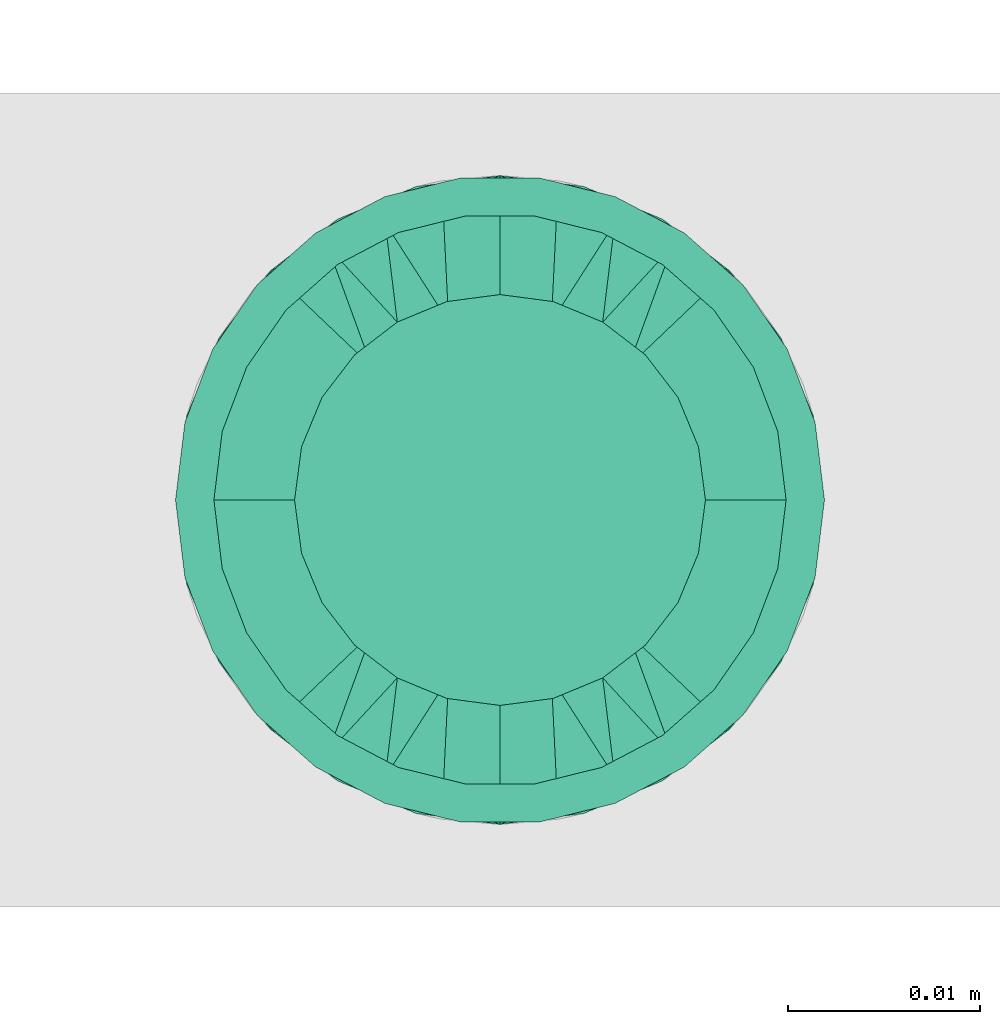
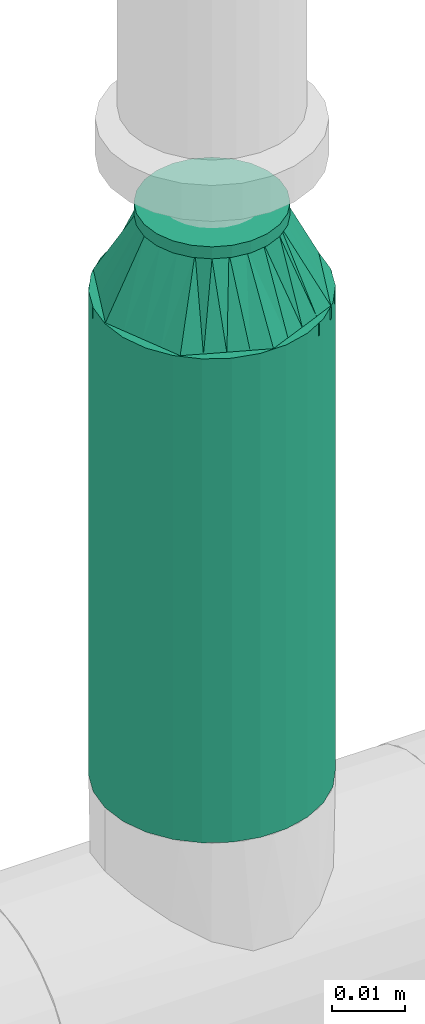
# One storey, part 32 of 94: 1 flow fitting, 1 flow segment.
"""IFC2X3 building model written with IfcOpenShell, lengths in millimetres."""

from ifc_helpers import new_model, entity, si_unit, converted_unit, derived_unit, direction, frame, origin_with_axes, origin_2d_with_axis, place, context, subcontext, project, spatial, hollow_circle, extrude, open_shell, surface_model, source, transform, mapped, type_object, element, save


model = new_model("IFC2X3")

# Units and contexts
model_context = context("Model", 3, precision=0.01, world=frame((0.0, 4.29681676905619e-09, 0.0)), true_north=direction((4.01073788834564e-13, 1.0)))
plan_context = context("Plan", 3, precision=0.01, world=frame((0.0, 4.29681676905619e-09, 0.0)), true_north=direction((4.01073788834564e-13, 1.0)))
body_context = subcontext(model_context, "Body", "Model", "MODEL_VIEW")
ifc_project = project(units=[converted_unit("PLANEANGLEUNIT", "DEGREE", entity("IfcPositiveLengthMeasure", 0.0174532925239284), si_unit("PLANEANGLEUNIT", "RADIAN"), dimensions=[0, 0, 0, 0, 0, 0, 0]), si_unit("AREAUNIT", "SQUARE_METRE"), si_unit("LENGTHUNIT", "METRE", prefix="MILLI"), si_unit("MASSUNIT", "GRAM", prefix="KILO"), si_unit("POWERUNIT", "WATT"), si_unit("PRESSUREUNIT", "PASCAL"), si_unit("FORCEUNIT", "NEWTON", prefix="KILO"), si_unit("ELECTRICCURRENTUNIT", "AMPERE"), si_unit("THERMODYNAMICTEMPERATUREUNIT", "DEGREE_CELSIUS"), si_unit("TIMEUNIT", "SECOND"), si_unit("VOLUMEUNIT", "CUBIC_METRE"), derived_unit("LINEARVELOCITYUNIT", [(si_unit("LENGTHUNIT", "METRE"), 1), (si_unit("TIMEUNIT", "SECOND"), -1)]), derived_unit("VOLUMETRICFLOWRATEUNIT", [(si_unit("VOLUMEUNIT", "CUBIC_METRE"), 1), (si_unit("TIMEUNIT", "SECOND"), -1)]), derived_unit("THERMALTRANSMITTANCEUNIT", [(si_unit("POWERUNIT", "WATT"), 1), (si_unit("THERMODYNAMICTEMPERATUREUNIT", "KELVIN"), -1), (si_unit("AREAUNIT", "SQUARE_METRE"), -1)])], contexts=[model_context, plan_context])

# Site, building, storey
site_placement = place(None, frame((0.0, -4.29681676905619e-09, 0.0), z_axis=(0.0, 0.0, 1.0), x_axis=(1.0, 0.0, 0.0)))
site = spatial("IfcSite", under=ifc_project, at=site_placement, CompositionType="ELEMENT")
building_placement = place(site_placement, frame((0.0, 4.29681676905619e-09, 0.0), z_axis=(0.0, 0.0, 1.0), x_axis=(1.0, 0.0, 0.0)))
building = spatial("IfcBuilding", under=site, at=building_placement, Name="mc-building", CompositionType="ELEMENT")
storey_placement = place(building_placement, frame((0.0, 0.0, 200300.0), z_axis=(0.0, 0.0, 1.0), x_axis=(1.0, 0.0, 0.0)))
storey = spatial("IfcBuildingStorey", under=building, at=storey_placement, Name="Nivå C", CompositionType="ELEMENT", Elevation=200300.0)

# Flow fitting
pipe_fitting_type = type_object("IfcPipeFittingType", Name="magi_pipe_fe_reducer_centric_short_NOR", PredefinedType="TRANSITION")
shared_shape_1 = source(origin_with_axes(), body_context, "Body", "SurfaceModel", [
    surface_model("IfcShellBasedSurfaceModel", [(-2.0, -7.56604, -7.56604), (-2.0, -10.33541, -2.76936), (-2.0, -5.35, -9.26647), (-2.0, 5.35, -9.26647), (-2.0, 10.33541, -2.76936), (-2.0, 7.56604, -7.56604), (12.4, 11.9501, 11.9501), (12.4, 0.0, 16.9), (12.4, 11.9501, -11.9501), (12.4, 16.9, 0.0), (0.0, -10.7, 0.0), (0.0, -5.35, 9.26647), (0.0, -5.35, -9.26647), (0.0, 10.7, 0.0), (12.4, 15.66253, -2.98753), (12.4, 8.96258, -13.18758), (0.0, 6.6875, -6.94985), (12.4, -15.66253, -2.98753), (12.4, -16.9, 0.0), (12.4, 5.97505, -14.42505), (0.0, 5.35, -9.26647), (12.4, 14.42505, -5.97505), (0.0, 8.025, -4.63324), (0.0, 9.3625, -2.31662), (0.0, -9.3625, -2.31662), (0.0, -8.025, -4.63324), (12.4, -14.42505, -5.97505), (12.4, 13.18758, -8.96258), (12.4, -13.18758, -8.96258), (12.4, -11.9501, -11.9501), (0.0, -6.6875, -6.94985), (12.4, -8.96258, -13.18758), (12.4, -5.97505, -14.42505), (12.4, -15.66253, 2.98753), (12.4, -8.96258, 13.18758), (0.0, -6.6875, 6.94985), (12.4, -11.9501, 11.9501), (12.4, 15.66253, 2.98753), (12.4, -5.97505, 14.42505), (12.4, -14.42505, 5.97505), (0.0, -8.025, 4.63324), (0.0, -9.3625, 2.31662), (0.0, 9.3625, 2.31662), (0.0, 8.025, 4.63324), (12.4, 14.42505, 5.97505), (12.4, -13.18758, 8.96258), (12.4, 13.18758, 8.96258), (0.0, 6.6875, 6.94985), (12.4, 8.96258, 13.18758), (0.0, 5.35, 9.26647), (12.4, 5.97505, 14.42505), (14.4, 4.37404, -16.32415), (14.4, 8.45, -14.63583), (14.4, 11.9501, -11.9501), (14.4, -8.45, -14.63583), (14.4, 16.32415, -4.37404), (14.4, 16.32415, 4.37404), (14.4, 14.63583, -8.45), (14.4, 0.0, -16.9), (14.4, -4.37404, -16.32415), (14.4, -11.9501, -11.9501), (14.4, -16.32415, -4.37404), (14.4, -14.63583, -8.45), (14.4, -16.32415, 4.37404), (14.4, 16.9, 0.0), (14.4, 14.63583, 8.45), (14.4, 11.9501, 11.9501), (14.4, 4.37404, 16.32415), (14.4, 8.45, 14.63583), (14.4, 0.0, 16.9), (14.4, -14.63583, 8.45), (14.4, -16.9, 0.0), (14.4, -8.45, 14.63583), (14.4, -11.9501, 11.9501), (14.4, -4.37404, 16.32415), (12.4, 4.37404, 16.32415), (12.4, -14.63583, 8.45), (12.4, 16.32415, 4.37404), (12.4, 8.45, 14.63583), (12.4, 14.63583, 8.45), (12.4, -8.45, 14.63583), (12.4, -4.37404, 16.32415), (12.4, -16.32415, 4.37404), (12.4, -16.32415, -4.37404), (12.4, -8.45, -14.63583), (12.4, 16.32415, -4.37404), (12.4, 14.63583, -8.45), (12.4, 8.45, -14.63583), (12.4, 4.37404, -16.32415), (12.4, 0.0, -16.9), (12.4, -14.63583, -8.45), (12.4, -4.37404, -16.32415), (-2.0, 2.76936, 10.33541), (-2.0, 0.0, 10.7), (-2.0, 5.35, 9.26647), (-2.0, 7.56604, 7.56604), (-2.0, 9.26647, 5.35), (-2.0, 10.33541, 2.76936), (-2.0, -10.33541, 2.76936), (-2.0, -2.76936, 10.33541), (-2.0, -7.56604, 7.56604), (-2.0, -5.35, 9.26647), (-2.0, -9.26647, 5.35), (-2.0, -10.7, 0.0), (-2.0, 9.26647, -5.35), (-2.0, 2.76936, -10.33541), (-2.0, -9.26647, -5.35), (-2.0, 0.0, -10.7), (-2.0, -2.76936, -10.33541), (-2.0, 10.7, 0.0), (0.0, 0.0, -10.7), (0.0, 2.76936, -10.33541), (0.0, 10.33541, -2.76936), (0.0, 7.56604, -7.56604), (0.0, -10.33541, -2.76936), (0.0, 9.26647, -5.35), (0.0, 0.0, 10.7), (0.0, -2.76936, -10.33541), (0.0, -7.56604, -7.56604), (0.0, -9.26647, -5.35), (0.0, 10.33541, 2.76936), (0.0, 9.26647, 5.35), (0.0, 7.56604, 7.56604), (0.0, 2.76936, 10.33541), (0.0, -7.56604, 7.56604), (0.0, -10.33541, 2.76936), (0.0, -9.26647, 5.35), (0.0, -2.76936, 10.33541), (0.0, 2.675, -9.26647), (0.0, -2.675, -9.26647), (12.4, 2.98753, -15.66253), (0.0, 0.0, -9.26647), (12.4, -2.98753, -15.66253), (0.0, -2.675, 9.26647), (0.0, 2.675, 9.26647), (12.4, -2.98753, 15.66253), (0.0, 0.0, 9.26647), (12.4, 2.98753, 15.66253)], [open_shell([[[0, 1, 2]], [[3, 4, 5]], [[6, 7, 8]], [[8, 9, 6]], [[10, 11, 12]], [[13, 9, 14]], [[15, 16, 8]], [[17, 18, 10]], [[15, 19, 20]], [[21, 22, 23]], [[24, 25, 26]], [[22, 21, 27]], [[28, 26, 25]], [[29, 30, 31]], [[12, 32, 31]], [[10, 18, 33]], [[34, 35, 36]], [[37, 9, 13]], [[34, 38, 11]], [[39, 40, 41]], [[42, 43, 44]], [[40, 39, 45]], [[46, 44, 43]], [[6, 47, 48]], [[49, 50, 48]], [[51, 52, 53]], [[54, 51, 53]], [[53, 55, 56]], [[55, 53, 57]], [[53, 56, 54]], [[58, 54, 59]], [[58, 51, 54]], [[60, 61, 62]], [[61, 60, 54]], [[54, 63, 61]], [[56, 55, 64]], [[56, 65, 66]], [[56, 66, 67]], [[67, 63, 54]], [[67, 66, 68]], [[63, 67, 69]], [[69, 70, 63]], [[71, 61, 63]], [[70, 72, 73]], [[70, 69, 72]], [[72, 69, 74]], [[54, 56, 67]], [[75, 76, 7]], [[77, 75, 78]], [[6, 79, 77]], [[6, 77, 78]], [[76, 75, 77]], [[80, 76, 36]], [[80, 81, 7]], [[7, 76, 80]], [[82, 76, 77]], [[82, 83, 18]], [[82, 77, 84]], [[77, 85, 8]], [[8, 85, 86]], [[8, 87, 88]], [[84, 77, 8]], [[88, 89, 8]], [[83, 29, 90]], [[29, 83, 84]], [[84, 89, 91]], [[83, 82, 84]], [[8, 89, 84]], [[85, 77, 9]], [[83, 61, 18]], [[90, 62, 83]], [[54, 29, 84]], [[90, 29, 60]], [[59, 84, 91]], [[83, 62, 61]], [[61, 71, 18]], [[59, 54, 84]], [[60, 29, 54]], [[60, 62, 90]], [[58, 59, 91]], [[91, 89, 58]], [[88, 51, 89]], [[87, 52, 88]], [[57, 8, 86]], [[87, 8, 53]], [[55, 86, 85]], [[87, 53, 52]], [[52, 51, 88]], [[64, 55, 85]], [[57, 86, 55]], [[57, 53, 8]], [[9, 64, 85]], [[89, 51, 58]], [[77, 56, 9]], [[79, 65, 77]], [[68, 6, 78]], [[79, 6, 66]], [[67, 78, 75]], [[77, 65, 56]], [[56, 64, 9]], [[67, 68, 78]], [[66, 6, 68]], [[66, 65, 79]], [[69, 67, 75]], [[75, 7, 69]], [[81, 74, 7]], [[80, 72, 81]], [[70, 36, 76]], [[80, 36, 73]], [[63, 76, 82]], [[80, 73, 72]], [[72, 74, 81]], [[71, 63, 82]], [[70, 76, 63]], [[70, 73, 36]], [[18, 71, 82]], [[7, 74, 69]], [[92, 1, 93]], [[94, 1, 92]], [[95, 96, 97]], [[95, 97, 94]], [[98, 93, 1]], [[99, 100, 101]], [[99, 93, 100]], [[100, 98, 102]], [[93, 98, 100]], [[98, 1, 103]], [[94, 97, 1]], [[1, 97, 4]], [[5, 4, 104]], [[4, 3, 1]], [[105, 1, 3]], [[1, 0, 106]], [[2, 107, 108]], [[2, 1, 105]], [[105, 107, 2]], [[4, 97, 109]], [[20, 110, 111]], [[112, 20, 113]], [[114, 20, 112]], [[112, 113, 115]], [[116, 114, 112]], [[110, 12, 117]], [[110, 20, 12]], [[118, 114, 119]], [[114, 118, 12]], [[20, 114, 12]], [[112, 13, 120]], [[120, 121, 122]], [[120, 122, 123]], [[116, 112, 123]], [[123, 122, 49]], [[116, 124, 114]], [[125, 124, 126]], [[10, 114, 125]], [[124, 127, 11]], [[125, 114, 124]], [[127, 124, 116]], [[123, 112, 120]], [[1, 114, 103]], [[106, 119, 1]], [[12, 0, 2]], [[106, 0, 118]], [[117, 2, 108]], [[1, 119, 114]], [[114, 10, 103]], [[117, 12, 2]], [[118, 0, 12]], [[118, 119, 106]], [[110, 117, 108]], [[108, 107, 110]], [[105, 111, 107]], [[3, 20, 105]], [[115, 5, 104]], [[3, 5, 113]], [[112, 104, 4]], [[3, 113, 20]], [[20, 111, 105]], [[13, 112, 4]], [[115, 104, 112]], [[115, 113, 5]], [[109, 13, 4]], [[107, 111, 110]], [[97, 120, 109]], [[96, 121, 97]], [[49, 95, 94]], [[96, 95, 122]], [[123, 94, 92]], [[97, 121, 120]], [[120, 13, 109]], [[123, 49, 94]], [[122, 95, 49]], [[122, 121, 96]], [[116, 123, 92]], [[92, 93, 116]], [[99, 127, 93]], [[101, 11, 99]], [[126, 100, 102]], [[101, 100, 124]], [[125, 102, 98]], [[101, 124, 11]], [[11, 127, 99]], [[10, 125, 98]], [[126, 102, 125]], [[126, 124, 100]], [[103, 10, 98]], [[93, 127, 116]], [[18, 7, 36]], [[18, 29, 8]], [[89, 8, 29]], [[18, 8, 7]], [[13, 11, 49]], [[13, 20, 12]], [[13, 12, 11]], [[24, 26, 17]], [[10, 24, 17]], [[16, 15, 20]], [[30, 12, 31]], [[23, 14, 21]], [[19, 128, 20]], [[27, 8, 16]], [[32, 12, 129]], [[30, 28, 25]], [[130, 131, 128]], [[129, 132, 32]], [[16, 22, 27]], [[13, 14, 23]], [[128, 19, 130]], [[130, 89, 131]], [[131, 132, 129]], [[89, 132, 131]], [[28, 30, 29]], [[42, 44, 37]], [[13, 42, 37]], [[35, 34, 11]], [[47, 49, 48]], [[41, 33, 39]], [[38, 133, 11]], [[45, 36, 35]], [[50, 49, 134]], [[47, 46, 43]], [[135, 136, 133]], [[134, 137, 50]], [[35, 40, 45]], [[10, 33, 41]], [[133, 38, 135]], [[135, 7, 136]], [[136, 137, 134]], [[7, 137, 136]], [[46, 47, 6]]])]),
])
flow_fitting_placement = place(storey_placement, frame((527508.72873, 407003.74497, 2975.04800000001), z_axis=(0.0, 1.0, 0.0), x_axis=(0.0, 0.0, -1.0)))
element("IfcFlowFitting", 1, at=flow_fitting_placement, inside=storey, type_object=pipe_fitting_type, Name="magi_pipe_fe_reducer_centric_short_NOR", context=body_context, shape_type="MappedRepresentation", body=[
    mapped(shared_shape_1, transform((0.0, 0.0, 0.0), scale=1.0)),
])

# Flow segment
pipe_segment_type = type_object("IfcPipeSegmentType", Name="Stålrør normaltykke", PredefinedType="RIGIDSEGMENT")
shared_shape_2 = source(origin_with_axes(), body_context, "Body", "SweptSolid", [
    extrude(hollow_circle(Radius=16.9, WallThickness=2.0, at=origin_2d_with_axis()), frame((0.0, 0.0, 0.0), z_axis=(1.0, 0.0, 0.0), x_axis=(0.0, 1.0, 0.0)), (0.0, 0.0, 1.0), 80.8),
])
flow_segment_placement = place(storey_placement, frame((527508.72873, 407003.74497, 2962.64799999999), z_axis=(0.0, 1.0, 0.0), x_axis=(0.0, 0.0, -1.0)))
element("IfcFlowSegment", 2, at=flow_segment_placement, inside=storey, type_object=pipe_segment_type, Name="Stålrør normaltykke", context=body_context, shape_type="MappedRepresentation", body=[
    mapped(shared_shape_2, transform((0.0, 0.0, 0.0), scale=1.0)),
])

save(model, "model.ifc")
